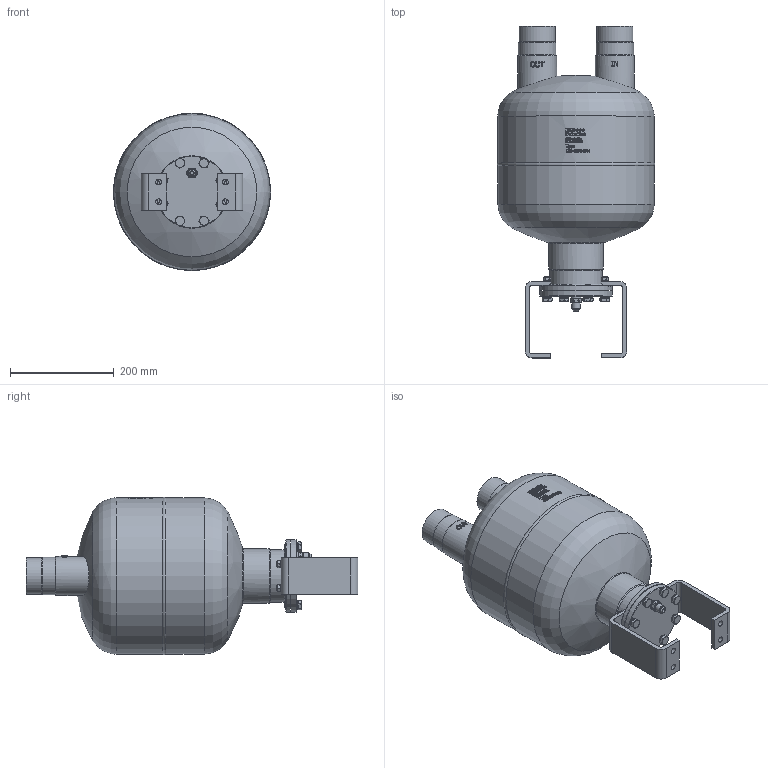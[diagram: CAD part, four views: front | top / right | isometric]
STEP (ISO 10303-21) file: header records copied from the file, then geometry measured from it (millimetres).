
FILE_DESCRIPTION(/* description */ (''),/* implementation_level */ '2;1');
FILE_NAME(/* name */ 'P:\OS\OS-67_64FH\OS-67_64FH.stp',/* time_stamp */ '2017-10-04T08:12:12+02:00',/* author */ ('neufeld'),/* organization */ (''),/* preprocessor_version */ 'ST-DEVELOPER v16.1',/* originating_system */ 'Autodesk Inventor 2016',/* authorisation */ '');
FILE_SCHEMA (('AUTOMOTIVE_DESIGN { 1 0 10303 214 3 1 1 }'));
Length unit declared in the file: millimetre
Products named in the file (3): OS-67_64FH_1; OS-67_64FH; OS-67_64FH_2
Assembly tree (2 placements, depth 2):
  OS-67_64FH_2
    OS-67_64FH_1
    OS-67_64FH
Bounding box: 304.09 x 641.35 x 304.09 mm (x, y, z)
Volume: 21848133.6 mm3; surface area: 575397.9 mm2
Topology: 1 solids, 1 shells, 1380 faces, 3648 edges, 2391 vertices
Faces by surface type: plane 703, bspline 354, cylinder 194, cone 121, torus 6, sphere 2
Full cylindrical faces by diameter (mm): 7.2 x1, 8 x8, 8.376 x4, 8.5 x4, 9.188 x8, 10 x12, 10.5 x8, 11 x4, 13.5 x1, 15.4 x8, 15.7 x1, 19 x1, 64.3 x2, 70 x2, 72.5 x2, 75.4 x2, 102 x1, 106 x1, 107.2 x1, 107.9 x1, 135 x1, 140 x2, 302 x2
Entity records: 49696 total; most frequent: CARTESIAN_POINT 18265, ORIENTED_EDGE 6954, DIRECTION 5642, EDGE_CURVE 3477, VERTEX_POINT 2343, AXIS2_PLACEMENT_3D 2066, EDGE_LOOP 1674, LINE 1510
